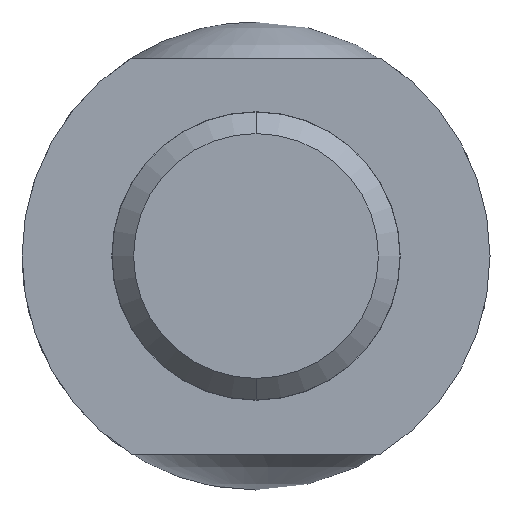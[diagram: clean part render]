
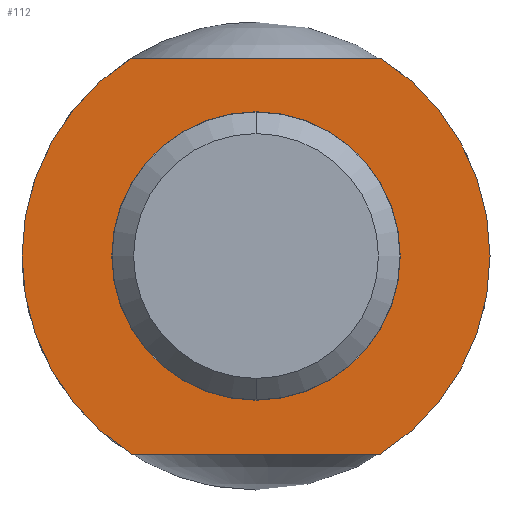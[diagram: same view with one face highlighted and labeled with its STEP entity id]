
A CAD part, front view. The second image highlights one B-rep face of the part: STEP entity #112.
In plain terms, the highlighted planar face has unit normal (0, -1, 0).
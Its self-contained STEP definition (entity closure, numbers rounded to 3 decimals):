
#44 = EDGE_CURVE ( 'NONE', #45, #50, #235, .T. ) ;
#45 = VERTEX_POINT ( 'NONE', #372 ) ;
#50 = VERTEX_POINT ( 'NONE', #363 ) ;
#87 = VERTEX_POINT ( 'NONE', #342 ) ;
#90 = VERTEX_POINT ( 'NONE', #341 ) ;
#100 = VERTEX_POINT ( 'NONE', #320 ) ;
#102 = EDGE_CURVE ( 'NONE', #100, #90, #318, .T. ) ;
#103 = EDGE_CURVE ( 'NONE', #104, #87, #313, .T. ) ;
#104 = VERTEX_POINT ( 'NONE', #309 ) ;
#109 = EDGE_CURVE ( 'NONE', #50, #45, #303, .T. ) ;
#110 = ORIENTED_EDGE ( 'NONE', *, *, #44, .T. ) ;
#112 = ADVANCED_FACE ( 'NONE', ( #293, #292 ), #291, .F. ) ;
#123 = EDGE_LOOP ( 'NONE', ( #110, #134 ) ) ;
#125 = EDGE_CURVE ( 'NONE', #100, #87, #519, .T. ) ;
#126 = ORIENTED_EDGE ( 'NONE', *, *, #125, .T. ) ;
#127 = EDGE_LOOP ( 'NONE', ( #126, #135, #137, #133 ) ) ;
#133 = ORIENTED_EDGE ( 'NONE', *, *, #102, .F. ) ;
#134 = ORIENTED_EDGE ( 'NONE', *, *, #109, .T. ) ;
#135 = ORIENTED_EDGE ( 'NONE', *, *, #103, .F. ) ;
#136 = EDGE_CURVE ( 'NONE', #104, #90, #508, .T. ) ;
#137 = ORIENTED_EDGE ( 'NONE', *, *, #136, .T. ) ;
#235 = CIRCLE ( 'NONE', #376, 4.005 ) ;
#287 = DIRECTION ( 'NONE',  ( 0., 0., 1. ) ) ;
#288 = DIRECTION ( 'NONE',  ( 0., 1., 0. ) ) ;
#289 = CARTESIAN_POINT ( 'NONE',  ( 0., 0., 0. ) ) ;
#290 = AXIS2_PLACEMENT_3D ( 'NONE', #289, #288, #287 ) ;
#291 = PLANE ( 'NONE',  #290 ) ;
#292 = FACE_OUTER_BOUND ( 'NONE', #127, .T. ) ;
#293 = FACE_BOUND ( 'NONE', #123, .T. ) ;
#299 = DIRECTION ( 'NONE',  ( 0., 0., 1. ) ) ;
#300 = DIRECTION ( 'NONE',  ( 0., 1., 0. ) ) ;
#301 = CARTESIAN_POINT ( 'NONE',  ( 0., 0., 0. ) ) ;
#302 = AXIS2_PLACEMENT_3D ( 'NONE', #301, #300, #299 ) ;
#303 = CIRCLE ( 'NONE', #302, 4.005 ) ;
#309 = CARTESIAN_POINT ( 'NONE',  ( 3.464, 0., 5.5 ) ) ;
#310 = DIRECTION ( 'NONE',  ( 0., 0., 1. ) ) ;
#311 = DIRECTION ( 'NONE',  ( 0., 1., 0. ) ) ;
#312 = AXIS2_PLACEMENT_3D ( 'NONE', #319, #311, #310 ) ;
#313 = CIRCLE ( 'NONE', #312, 6.5 ) ;
#314 = DIRECTION ( 'NONE',  ( 0., 0., 1. ) ) ;
#315 = DIRECTION ( 'NONE',  ( 0., 1., 0. ) ) ;
#316 = CARTESIAN_POINT ( 'NONE',  ( 0., 0., 0. ) ) ;
#317 = AXIS2_PLACEMENT_3D ( 'NONE', #316, #315, #314 ) ;
#318 = CIRCLE ( 'NONE', #317, 6.5 ) ;
#319 = CARTESIAN_POINT ( 'NONE',  ( 0., 0., 0. ) ) ;
#320 = CARTESIAN_POINT ( 'NONE',  ( -3.464, 0., -5.5 ) ) ;
#341 = CARTESIAN_POINT ( 'NONE',  ( -3.464, 0., 5.5 ) ) ;
#342 = CARTESIAN_POINT ( 'NONE',  ( 3.464, 0., -5.5 ) ) ;
#363 = CARTESIAN_POINT ( 'NONE',  ( 0., 0., -4.005 ) ) ;
#372 = CARTESIAN_POINT ( 'NONE',  ( 0., 0., 4.005 ) ) ;
#373 = DIRECTION ( 'NONE',  ( 0., 0., 1. ) ) ;
#374 = DIRECTION ( 'NONE',  ( 0., 1., 0. ) ) ;
#375 = CARTESIAN_POINT ( 'NONE',  ( 0., 0., 0. ) ) ;
#376 = AXIS2_PLACEMENT_3D ( 'NONE', #375, #374, #373 ) ;
#505 = DIRECTION ( 'NONE',  ( -1., 0., 0. ) ) ;
#506 = VECTOR ( 'NONE', #505, 1000. ) ;
#507 = CARTESIAN_POINT ( 'NONE',  ( -6.5, 0., 5.5 ) ) ;
#508 = LINE ( 'NONE', #507, #506 ) ;
#516 = DIRECTION ( 'NONE',  ( 1., 0., 0. ) ) ;
#517 = VECTOR ( 'NONE', #516, 1000. ) ;
#518 = CARTESIAN_POINT ( 'NONE',  ( -6.5, 0., -5.5 ) ) ;
#519 = LINE ( 'NONE', #518, #517 ) ;
